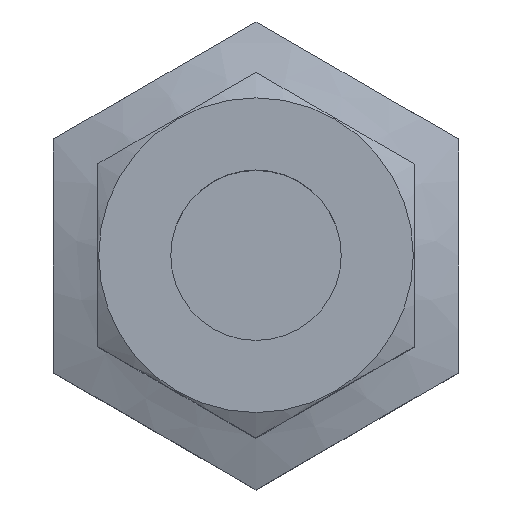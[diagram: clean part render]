
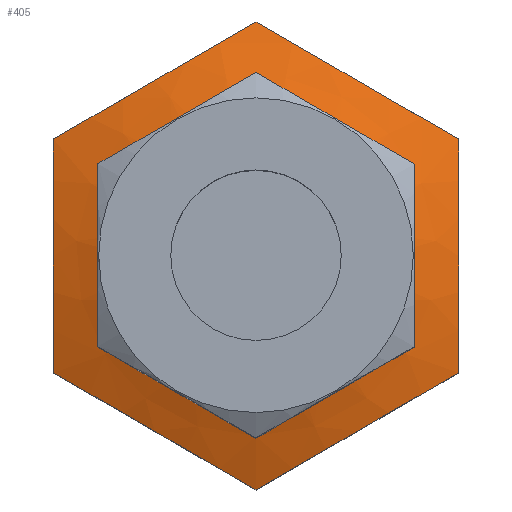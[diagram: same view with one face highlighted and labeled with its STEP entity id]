
A CAD part, top view. The second image highlights one B-rep face of the part: STEP entity #405.
In plain terms, the highlighted conical face has half-angle 70 degrees and reference radius 11.115 mm.
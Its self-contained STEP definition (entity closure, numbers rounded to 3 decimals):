
#45=(
BOUNDED_CURVE()
B_SPLINE_CURVE(2,(#590,#591,#592),.UNSPECIFIED.,.F.,.F.)
B_SPLINE_CURVE_WITH_KNOTS((3,3),(0.138,1.579),
 .UNSPECIFIED.)
CURVE()
GEOMETRIC_REPRESENTATION_ITEM()
RATIONAL_B_SPLINE_CURVE((1.033,1.193,1.033))
REPRESENTATION_ITEM('')
);
#46=(
BOUNDED_CURVE()
B_SPLINE_CURVE(2,(#597,#598,#599),.UNSPECIFIED.,.F.,.F.)
B_SPLINE_CURVE_WITH_KNOTS((3,3),(0.138,1.579),
 .UNSPECIFIED.)
CURVE()
GEOMETRIC_REPRESENTATION_ITEM()
RATIONAL_B_SPLINE_CURVE((1.033,1.193,1.033))
REPRESENTATION_ITEM('')
);
#47=(
BOUNDED_CURVE()
B_SPLINE_CURVE(2,(#603,#604,#605),.UNSPECIFIED.,.F.,.F.)
B_SPLINE_CURVE_WITH_KNOTS((3,3),(0.138,1.579),
 .UNSPECIFIED.)
CURVE()
GEOMETRIC_REPRESENTATION_ITEM()
RATIONAL_B_SPLINE_CURVE((1.033,1.193,1.033))
REPRESENTATION_ITEM('')
);
#48=(
BOUNDED_CURVE()
B_SPLINE_CURVE(2,(#609,#610,#611),.UNSPECIFIED.,.F.,.F.)
B_SPLINE_CURVE_WITH_KNOTS((3,3),(0.138,1.579),
 .UNSPECIFIED.)
CURVE()
GEOMETRIC_REPRESENTATION_ITEM()
RATIONAL_B_SPLINE_CURVE((1.033,1.193,1.033))
REPRESENTATION_ITEM('')
);
#49=(
BOUNDED_CURVE()
B_SPLINE_CURVE(2,(#615,#616,#617),.UNSPECIFIED.,.F.,.F.)
B_SPLINE_CURVE_WITH_KNOTS((3,3),(0.138,1.579),
 .UNSPECIFIED.)
CURVE()
GEOMETRIC_REPRESENTATION_ITEM()
RATIONAL_B_SPLINE_CURVE((1.033,1.193,1.033))
REPRESENTATION_ITEM('')
);
#50=(
BOUNDED_CURVE()
B_SPLINE_CURVE(2,(#619,#620,#621),.UNSPECIFIED.,.F.,.F.)
B_SPLINE_CURVE_WITH_KNOTS((3,3),(0.138,1.579),
 .UNSPECIFIED.)
CURVE()
GEOMETRIC_REPRESENTATION_ITEM()
RATIONAL_B_SPLINE_CURVE((1.033,1.193,1.033))
REPRESENTATION_ITEM('')
);
#91=FACE_BOUND('',#148,.T.);
#112=FACE_OUTER_BOUND('',#147,.T.);
#147=EDGE_LOOP('',(#306,#307,#308,#309,#310,#311));
#148=EDGE_LOOP('',(#312));
#172=CIRCLE('',#443,7.508);
#185=VERTEX_POINT('',#587);
#186=VERTEX_POINT('',#589);
#187=VERTEX_POINT('',#595);
#188=VERTEX_POINT('',#601);
#189=VERTEX_POINT('',#607);
#190=VERTEX_POINT('',#613);
#196=VERTEX_POINT('',#638);
#222=EDGE_CURVE('',#186,#185,#45,.T.);
#225=EDGE_CURVE('',#185,#187,#46,.T.);
#227=EDGE_CURVE('',#187,#188,#47,.T.);
#229=EDGE_CURVE('',#188,#189,#48,.T.);
#231=EDGE_CURVE('',#189,#190,#49,.T.);
#232=EDGE_CURVE('',#190,#186,#50,.T.);
#238=EDGE_CURVE('',#196,#196,#172,.T.);
#306=ORIENTED_EDGE('',*,*,#232,.T.);
#307=ORIENTED_EDGE('',*,*,#222,.T.);
#308=ORIENTED_EDGE('',*,*,#225,.T.);
#309=ORIENTED_EDGE('',*,*,#227,.T.);
#310=ORIENTED_EDGE('',*,*,#229,.T.);
#311=ORIENTED_EDGE('',*,*,#231,.T.);
#312=ORIENTED_EDGE('',*,*,#238,.T.);
#358=CONICAL_SURFACE('',#444,11.115,70.);
#405=ADVANCED_FACE('',(#112,#91),#358,.T.);
#443=AXIS2_PLACEMENT_3D('',#639,#515,#516);
#444=AXIS2_PLACEMENT_3D('',#640,#517,#518);
#515=DIRECTION('center_axis',(0.,0.,
-1.));
#516=DIRECTION('ref_axis',(-1.,0.,0.));
#517=DIRECTION('center_axis',(0.,0.,
-1.));
#518=DIRECTION('ref_axis',(0.,-1.,0.));
#587=CARTESIAN_POINT('',(-12.,6.928,-3.483));
#589=CARTESIAN_POINT('',(0.,13.856,-3.483));
#590=CARTESIAN_POINT('Ctrl Pts',(0.,13.856,-3.483));
#591=CARTESIAN_POINT('Ctrl Pts',(-6.,10.392,-2.222));
#592=CARTESIAN_POINT('Ctrl Pts',(-12.,6.928,-3.483));
#595=CARTESIAN_POINT('',(-12.,-6.928,-3.483));
#597=CARTESIAN_POINT('Ctrl Pts',(-12.,6.928,-3.483));
#598=CARTESIAN_POINT('Ctrl Pts',(-12.,0.,-2.222));
#599=CARTESIAN_POINT('Ctrl Pts',(-12.,-6.928,-3.483));
#601=CARTESIAN_POINT('',(0.,-13.856,-3.483));
#603=CARTESIAN_POINT('Ctrl Pts',(-12.,-6.928,-3.483));
#604=CARTESIAN_POINT('Ctrl Pts',(-6.,-10.392,-2.222));
#605=CARTESIAN_POINT('Ctrl Pts',(0.,-13.856,
-3.483));
#607=CARTESIAN_POINT('',(12.,-6.928,-3.483));
#609=CARTESIAN_POINT('Ctrl Pts',(0.,-13.856,
-3.483));
#610=CARTESIAN_POINT('Ctrl Pts',(6.,-10.392,-2.222));
#611=CARTESIAN_POINT('Ctrl Pts',(12.,-6.928,-3.483));
#613=CARTESIAN_POINT('',(12.,6.928,-3.483));
#615=CARTESIAN_POINT('Ctrl Pts',(12.,-6.928,-3.483));
#616=CARTESIAN_POINT('Ctrl Pts',(12.,0.,-2.222));
#617=CARTESIAN_POINT('Ctrl Pts',(12.,6.928,-3.483));
#619=CARTESIAN_POINT('Ctrl Pts',(12.,6.928,-3.483));
#620=CARTESIAN_POINT('Ctrl Pts',(6.,10.392,-2.222));
#621=CARTESIAN_POINT('Ctrl Pts',(0.,13.856,-3.483));
#638=CARTESIAN_POINT('',(0.,-7.508,-1.172));
#639=CARTESIAN_POINT('Origin',(0.,0.,
-1.172));
#640=CARTESIAN_POINT('Origin',(0.,0.,
-2.485));
